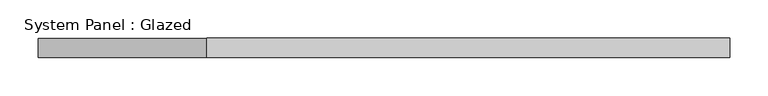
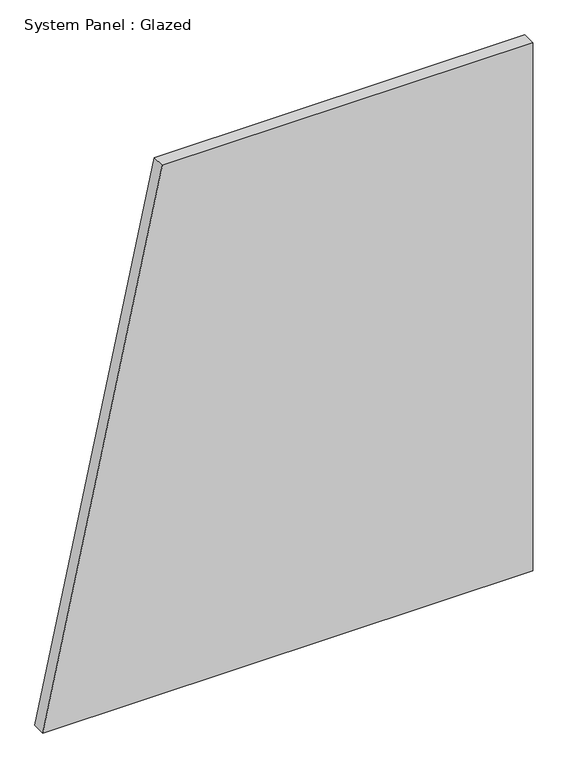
"""IFC4 building model written with IfcOpenShell, lengths in millimetres: plate geometry, System Panel : Glazed."""

from ifc_helpers import new_model, si_unit, frame, origin, place, context, project, spatial, polyline, outline, extrude, source, transform, mapped, element, save


def system_panel_glazed_892f7a3c(model_context):
    return source(origin(), model_context, "Body", "SweptSolid", [
        extrude(outline(polyline([(0.0, -449.5877923), (0.0, 449.5877923), (1025.0, 449.5877923), (1025.0, -230.4008898), (0.0, -449.5877923)])), frame((0.0, -49.5, 0.0), z_axis=(0.0, 1.0, 0.0), x_axis=(0.0, 0.0, 1.0)), (0.0, 0.0, 1.0), 25.0),
    ])


if __name__ == "__main__":
    model = new_model("IFC4")
    model_context = context("Model", 3, world=origin())
    ifc_project = project(units=[si_unit("LENGTHUNIT", "METRE", prefix="MILLI")], contexts=[model_context])
    site = spatial("IfcSite", under=ifc_project)
    building = spatial("IfcBuilding", under=site)
    placement = place(None, origin())
    system_panel_glazed_shape = system_panel_glazed_892f7a3c(model_context)
    element("IfcPlate", 1, ObjectType="System Panel : Glazed", at=placement, inside=building, context=model_context, shape_type="MappedRepresentation", body=[
        mapped(system_panel_glazed_shape, transform((0.0, 0.0, 0.0), x_axis=(1.0, 0.0, 0.0), y_axis=(0.0, 1.0, 0.0), z_axis=(0.0, 0.0, 1.0))),
    ])
    save(model, "model.ifc")
